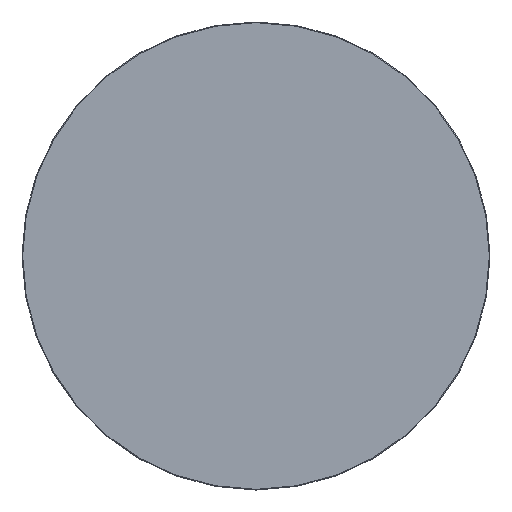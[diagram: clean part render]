
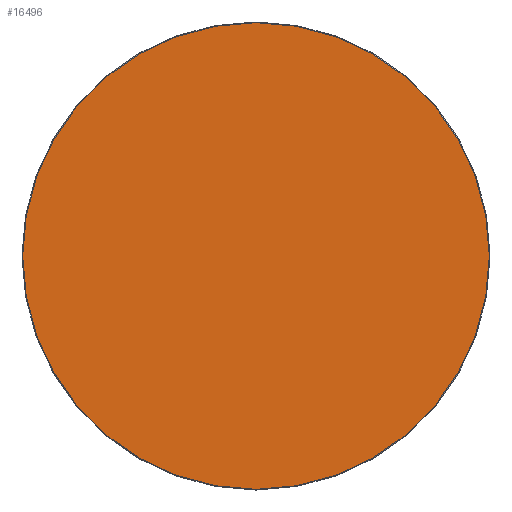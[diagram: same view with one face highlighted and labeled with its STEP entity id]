
A CAD part, top view. The second image highlights one B-rep face of the part: STEP entity #16496.
In plain terms, the highlighted planar face has unit normal (0, 0, 1).
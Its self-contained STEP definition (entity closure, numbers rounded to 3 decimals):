
#16421=CARTESIAN_POINT('',(0.,0.,20.));
#16422=DIRECTION('',(1.,0.,0.));
#16423=DIRECTION('',(0.,0.,1.));
#16424=AXIS2_PLACEMENT_3D('',#16421,#16423,#16422);
#16425=PLANE('',#16424);
#16426=CARTESIAN_POINT('',(-0.5,-498.5,20.));
#16427=VERTEX_POINT('',#16426);
#16428=CARTESIAN_POINT('',(0.5,-498.5,20.));
#16429=VERTEX_POINT('',#16428);
#16430=CARTESIAN_POINT('',(-0.5,-498.5,20.));
#16431=DIRECTION('',(1.,0.,0.));
#16432=VECTOR('',#16431,1.);
#16433=LINE('',#16430,#16432);
#16434=EDGE_CURVE('',#16427,#16429,#16433,.T.);
#16435=ORIENTED_EDGE('E105',*,*,#16434,.T.);
#16436=CARTESIAN_POINT('',(498.5,-0.5,20.));
#16437=VERTEX_POINT('',#16436);
#16438=CARTESIAN_POINT('',(0.5,-0.5,20.));
#16439=DIRECTION('',(0.,-1.,0.));
#16440=DIRECTION('',(0.,-0.,1.));
#16441=AXIS2_PLACEMENT_3D('',#16438,#16440,#16439);
#16442=CIRCLE('',#16441,498.);
#16443=EDGE_CURVE('',#16429,#16437,#16442,.T.);
#16444=ORIENTED_EDGE('E107',*,*,#16443,.T.);
#16445=CARTESIAN_POINT('',(498.5,0.5,20.));
#16446=VERTEX_POINT('',#16445);
#16447=CARTESIAN_POINT('',(498.5,-0.5,20.));
#16448=DIRECTION('',(0.,1.,0.));
#16449=VECTOR('',#16448,1.);
#16450=LINE('',#16447,#16449);
#16451=EDGE_CURVE('',#16437,#16446,#16450,.T.);
#16452=ORIENTED_EDGE('E109',*,*,#16451,.T.);
#16453=CARTESIAN_POINT('',(0.5,498.5,20.));
#16454=VERTEX_POINT('',#16453);
#16455=CARTESIAN_POINT('',(0.5,0.5,20.));
#16456=DIRECTION('',(1.,0.,0.));
#16457=DIRECTION('',(0.,0.,1.));
#16458=AXIS2_PLACEMENT_3D('',#16455,#16457,#16456);
#16459=CIRCLE('',#16458,498.);
#16460=EDGE_CURVE('',#16446,#16454,#16459,.T.);
#16461=ORIENTED_EDGE('E111',*,*,#16460,.T.);
#16462=CARTESIAN_POINT('',(-0.5,498.5,20.));
#16463=VERTEX_POINT('',#16462);
#16464=CARTESIAN_POINT('',(0.5,498.5,20.));
#16465=DIRECTION('',(-1.,0.,0.));
#16466=VECTOR('',#16465,1.);
#16467=LINE('',#16464,#16466);
#16468=EDGE_CURVE('',#16454,#16463,#16467,.T.);
#16469=ORIENTED_EDGE('E113',*,*,#16468,.T.);
#16470=CARTESIAN_POINT('',(-498.5,0.5,20.));
#16471=VERTEX_POINT('',#16470);
#16472=CARTESIAN_POINT('',(-0.5,0.5,20.));
#16473=DIRECTION('',(0.,1.,0.));
#16474=DIRECTION('',(0.,0.,1.));
#16475=AXIS2_PLACEMENT_3D('',#16472,#16474,#16473);
#16476=CIRCLE('',#16475,498.);
#16477=EDGE_CURVE('',#16463,#16471,#16476,.T.);
#16478=ORIENTED_EDGE('E115',*,*,#16477,.T.);
#16479=CARTESIAN_POINT('',(-498.5,-0.5,20.));
#16480=VERTEX_POINT('',#16479);
#16481=CARTESIAN_POINT('',(-498.5,0.5,20.));
#16482=DIRECTION('',(0.,-1.,0.));
#16483=VECTOR('',#16482,1.);
#16484=LINE('',#16481,#16483);
#16485=EDGE_CURVE('',#16471,#16480,#16484,.T.);
#16486=ORIENTED_EDGE('E117',*,*,#16485,.T.);
#16487=CARTESIAN_POINT('',(-0.5,-0.5,20.));
#16488=DIRECTION('',(-1.,0.,0.));
#16489=DIRECTION('',(-0.,0.,1.));
#16490=AXIS2_PLACEMENT_3D('',#16487,#16489,#16488);
#16491=CIRCLE('',#16490,498.);
#16492=EDGE_CURVE('',#16480,#16427,#16491,.T.);
#16493=ORIENTED_EDGE('E119',*,*,#16492,.T.);
#16494=EDGE_LOOP('',(#16435,#16444,#16452,#16461,#16469,#16478,#16486,#16493));
#16495=FACE_OUTER_BOUND('',#16494,.T.);
#16496=ADVANCED_FACE('F2',(#16495),#16425,.T.);
